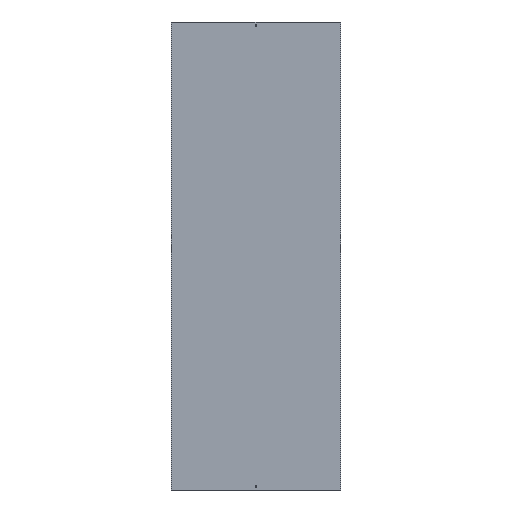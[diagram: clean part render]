
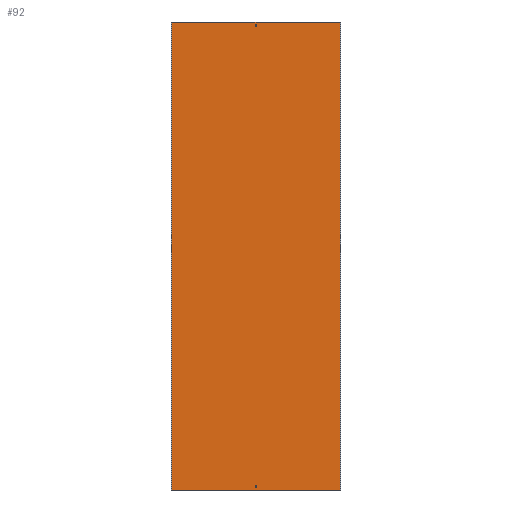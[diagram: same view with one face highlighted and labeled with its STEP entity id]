
A CAD part, front view. The second image highlights one B-rep face of the part: STEP entity #92.
In plain terms, the highlighted planar face has unit normal (0, -1, 0).
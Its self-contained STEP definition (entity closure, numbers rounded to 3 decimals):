
#2 = CARTESIAN_POINT ( 'NONE',  ( 3.25, -1.5, -988. ) ) ;
#5 = CARTESIAN_POINT ( 'NONE',  ( -3.25, -1.5, 1000. ) ) ;
#16 = CARTESIAN_POINT ( 'NONE',  ( -361.5, -1.5, -979. ) ) ;
#21 = EDGE_LOOP ( 'NONE', ( #71, #133, #330, #417 ) ) ;
#23 = CARTESIAN_POINT ( 'NONE',  ( -361.5, -1.5, 979. ) ) ;
#29 = LINE ( 'NONE', #130, #512 ) ;
#31 = CARTESIAN_POINT ( 'NONE',  ( -361.5, -1.5, 1000. ) ) ;
#32 = EDGE_CURVE ( 'NONE', #68, #240, #29, .T. ) ;
#33 = EDGE_CURVE ( 'NONE', #103, #68, #587, .T. ) ;
#52 = DIRECTION ( 'NONE',  ( 0., 0., -1. ) ) ;
#55 = LINE ( 'NONE', #5, #172 ) ;
#63 = CARTESIAN_POINT ( 'NONE',  ( -361.5, -1.5, 1000. ) ) ;
#64 = ORIENTED_EDGE ( 'NONE', *, *, #401, .F. ) ;
#67 = CARTESIAN_POINT ( 'NONE',  ( 3.25, -1.5, -979. ) ) ;
#68 = VERTEX_POINT ( 'NONE', #77 ) ;
#71 = ORIENTED_EDGE ( 'NONE', *, *, #33, .T. ) ;
#73 = LINE ( 'NONE', #389, #209 ) ;
#75 = DIRECTION ( 'NONE',  ( 0., 0., 1. ) ) ;
#77 = CARTESIAN_POINT ( 'NONE',  ( -3.25, -1.5, -988. ) ) ;
#78 = EDGE_CURVE ( 'NONE', #484, #205, #73, .T. ) ;
#83 = CARTESIAN_POINT ( 'NONE',  ( -361.5, -1.5, -988. ) ) ;
#92 = ADVANCED_FACE ( 'NONE', ( #308, #528, #173 ), #534, .T. ) ;
#95 = VECTOR ( 'NONE', #309, 1000. ) ;
#100 = CARTESIAN_POINT ( 'NONE',  ( -360., -1.5, -1000. ) ) ;
#103 = VERTEX_POINT ( 'NONE', #2 ) ;
#112 = ORIENTED_EDGE ( 'NONE', *, *, #182, .F. ) ;
#126 = LINE ( 'NONE', #533, #95 ) ;
#130 = CARTESIAN_POINT ( 'NONE',  ( -3.25, -1.5, 1000. ) ) ;
#131 = CARTESIAN_POINT ( 'NONE',  ( -3.25, -1.5, 988. ) ) ;
#133 = ORIENTED_EDGE ( 'NONE', *, *, #32, .T. ) ;
#141 = CARTESIAN_POINT ( 'NONE',  ( 3.25, -1.5, 988. ) ) ;
#149 = EDGE_CURVE ( 'NONE', #332, #205, #180, .T. ) ;
#150 = VECTOR ( 'NONE', #175, 1000. ) ;
#158 = EDGE_CURVE ( 'NONE', #519, #489, #55, .T. ) ;
#159 = VERTEX_POINT ( 'NONE', #141 ) ;
#162 = EDGE_LOOP ( 'NONE', ( #334, #112, #341, #212 ) ) ;
#168 = CARTESIAN_POINT ( 'NONE',  ( 360., -1.5, -1000. ) ) ;
#170 = VECTOR ( 'NONE', #75, 1000. ) ;
#172 = VECTOR ( 'NONE', #313, 1000. ) ;
#173 = FACE_BOUND ( 'NONE', #21, .T. ) ;
#175 = DIRECTION ( 'NONE',  ( -1., 0., 0. ) ) ;
#178 = CARTESIAN_POINT ( 'NONE',  ( -361.5, -1.5, 988. ) ) ;
#180 = LINE ( 'NONE', #544, #366 ) ;
#182 = EDGE_CURVE ( 'NONE', #526, #484, #363, .T. ) ;
#199 = LINE ( 'NONE', #63, #475 ) ;
#205 = VERTEX_POINT ( 'NONE', #100 ) ;
#207 = DIRECTION ( 'NONE',  ( 1., 0., 0. ) ) ;
#208 = ORIENTED_EDGE ( 'NONE', *, *, #158, .F. ) ;
#209 = VECTOR ( 'NONE', #581, 1000. ) ;
#212 = ORIENTED_EDGE ( 'NONE', *, *, #149, .T. ) ;
#215 = VERTEX_POINT ( 'NONE', #461 ) ;
#217 = DIRECTION ( 'NONE',  ( 0., -1., 0. ) ) ;
#240 = VERTEX_POINT ( 'NONE', #369 ) ;
#246 = LINE ( 'NONE', #16, #296 ) ;
#265 = LINE ( 'NONE', #441, #170 ) ;
#270 = CARTESIAN_POINT ( 'NONE',  ( 360., -1.5, 1000. ) ) ;
#271 = DIRECTION ( 'NONE',  ( 0., 0., -1. ) ) ;
#272 = EDGE_CURVE ( 'NONE', #526, #332, #199, .T. ) ;
#286 = VECTOR ( 'NONE', #317, 1000. ) ;
#296 = VECTOR ( 'NONE', #375, 1000. ) ;
#297 = CARTESIAN_POINT ( 'NONE',  ( -360., -1.5, 1000. ) ) ;
#303 = EDGE_CURVE ( 'NONE', #240, #319, #246, .T. ) ;
#308 = FACE_BOUND ( 'NONE', #555, .T. ) ;
#309 = DIRECTION ( 'NONE',  ( 0., 0., -1. ) ) ;
#313 = DIRECTION ( 'NONE',  ( 0., 0., -1. ) ) ;
#317 = DIRECTION ( 'NONE',  ( -1., 0., 0. ) ) ;
#319 = VERTEX_POINT ( 'NONE', #67 ) ;
#330 = ORIENTED_EDGE ( 'NONE', *, *, #303, .T. ) ;
#332 = VERTEX_POINT ( 'NONE', #297 ) ;
#334 = ORIENTED_EDGE ( 'NONE', *, *, #78, .F. ) ;
#341 = ORIENTED_EDGE ( 'NONE', *, *, #272, .T. ) ;
#361 = EDGE_CURVE ( 'NONE', #489, #215, #428, .T. ) ;
#363 = LINE ( 'NONE', #414, #578 ) ;
#366 = VECTOR ( 'NONE', #271, 1000. ) ;
#368 = ORIENTED_EDGE ( 'NONE', *, *, #580, .F. ) ;
#369 = CARTESIAN_POINT ( 'NONE',  ( -3.25, -1.5, -979. ) ) ;
#375 = DIRECTION ( 'NONE',  ( 1., 0., 0. ) ) ;
#389 = CARTESIAN_POINT ( 'NONE',  ( -361.5, -1.5, -1000. ) ) ;
#392 = EDGE_CURVE ( 'NONE', #319, #103, #126, .T. ) ;
#394 = VECTOR ( 'NONE', #207, 1000. ) ;
#401 = EDGE_CURVE ( 'NONE', #215, #159, #265, .T. ) ;
#414 = CARTESIAN_POINT ( 'NONE',  ( 360., -1.5, 1000. ) ) ;
#416 = DIRECTION ( 'NONE',  ( 0., 0., -1. ) ) ;
#417 = ORIENTED_EDGE ( 'NONE', *, *, #392, .T. ) ;
#428 = LINE ( 'NONE', #23, #394 ) ;
#441 = CARTESIAN_POINT ( 'NONE',  ( 3.25, -1.5, 1000. ) ) ;
#442 = DIRECTION ( 'NONE',  ( 0., 0., 1. ) ) ;
#450 = LINE ( 'NONE', #178, #286 ) ;
#461 = CARTESIAN_POINT ( 'NONE',  ( 3.25, -1.5, 979. ) ) ;
#475 = VECTOR ( 'NONE', #510, 1000. ) ;
#484 = VERTEX_POINT ( 'NONE', #168 ) ;
#489 = VERTEX_POINT ( 'NONE', #530 ) ;
#510 = DIRECTION ( 'NONE',  ( -1., 0., 0. ) ) ;
#511 = ORIENTED_EDGE ( 'NONE', *, *, #361, .F. ) ;
#512 = VECTOR ( 'NONE', #442, 1000. ) ;
#519 = VERTEX_POINT ( 'NONE', #131 ) ;
#526 = VERTEX_POINT ( 'NONE', #270 ) ;
#528 = FACE_OUTER_BOUND ( 'NONE', #162, .T. ) ;
#530 = CARTESIAN_POINT ( 'NONE',  ( -3.25, -1.5, 979. ) ) ;
#533 = CARTESIAN_POINT ( 'NONE',  ( 3.25, -1.5, 1000. ) ) ;
#534 = PLANE ( 'NONE',  #553 ) ;
#544 = CARTESIAN_POINT ( 'NONE',  ( -360., -1.5, 1000. ) ) ;
#553 = AXIS2_PLACEMENT_3D ( 'NONE', #31, #217, #52 ) ;
#555 = EDGE_LOOP ( 'NONE', ( #208, #368, #64, #511 ) ) ;
#578 = VECTOR ( 'NONE', #416, 1000. ) ;
#580 = EDGE_CURVE ( 'NONE', #159, #519, #450, .T. ) ;
#581 = DIRECTION ( 'NONE',  ( -1., 0., 0. ) ) ;
#587 = LINE ( 'NONE', #83, #150 ) ;
